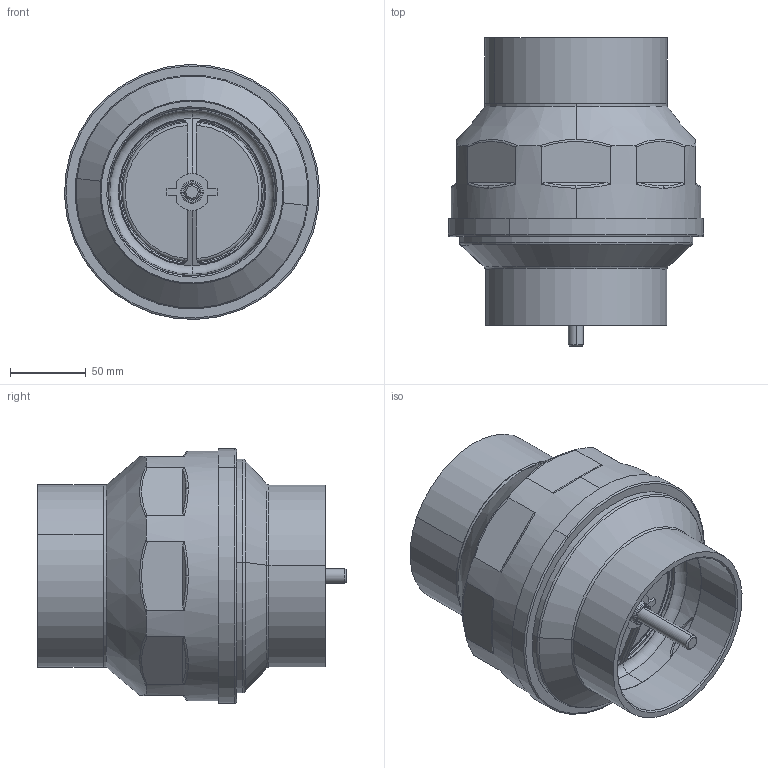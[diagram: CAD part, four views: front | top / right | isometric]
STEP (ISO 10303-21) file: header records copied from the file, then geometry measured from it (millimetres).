
FILE_DESCRIPTION (( 'STEP AP203' ), '1' );
FILE_NAME ('06C0031 G4.STEP', '2018-05-23T09:11:52', ( '' ), ( '' ), 'SwSTEP 2.0', 'SolidWorks 2016', '' );
FILE_SCHEMA (( 'CONFIG_CONTROL_DESIGN' ));
Length unit declared in the file: millimetre
Products named in the file (14): 06C0035 X G4; 06C0043 X G4; 06C0032 X G4; 06C0044 X G4; 05C0004 X G4; 06C0033 X G4; 06F97003 X G4; OR6387 X G4; 06L1102 X G4; 06C0042 X G4; 05C0003 X G4; 06C0040 X G4; 06C0031 G4; 06C0037 X G4
Assembly tree (13 placements, depth 2):
  06C0031 G4
    06C0035 X G4
    06C0033 X G4
    OR6387 X G4
    06C0042 X G4
    06C0040 X G4
    06C0037 X G4
    06C0043 X G4
    06C0032 X G4
    06C0044 X G4
    05C0004 X G4
    06F97003 X G4
    06L1102 X G4
    05C0003 X G4
Bounding box: 167.94 x 203 x 167.94 mm (x, y, z)
Volume: 486975 mm3; surface area: 331749 mm2
Topology: 13 solids, 13 shells, 386 faces, 960 edges, 607 vertices
Faces by surface type: cylinder 129, plane 120, torus 60, cone 51, bspline 26
Entity records: 22643 total; most frequent: CARTESIAN_POINT 12027, DIRECTION 1969, ORIENTED_EDGE 1920, EDGE_CURVE 960, AXIS2_PLACEMENT_3D 807, VERTEX_POINT 607, CIRCLE 431, EDGE_LOOP 419
